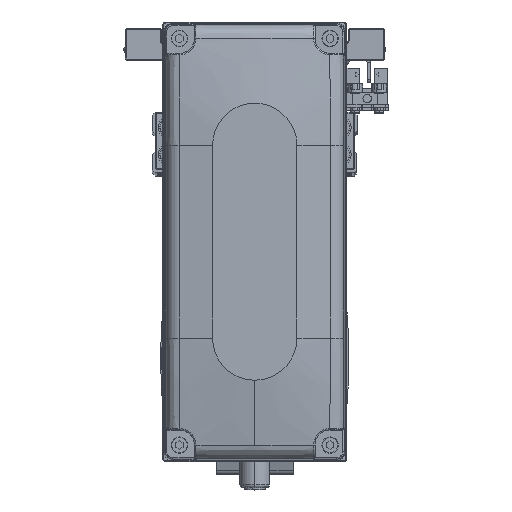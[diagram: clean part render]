
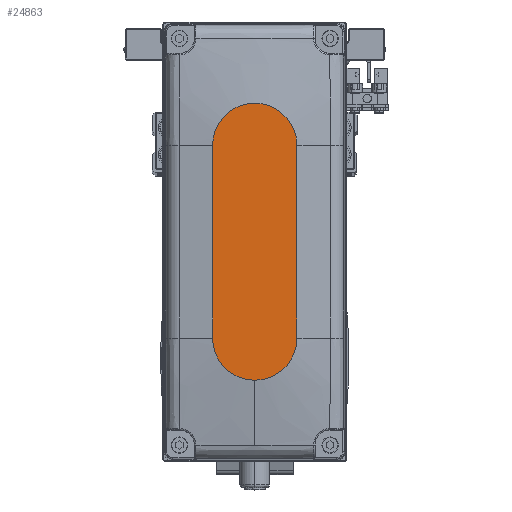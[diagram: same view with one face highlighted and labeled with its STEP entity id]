
A CAD part, top view. The second image highlights one B-rep face of the part: STEP entity #24863.
In plain terms, the highlighted planar face has unit normal (0, 0, 1).
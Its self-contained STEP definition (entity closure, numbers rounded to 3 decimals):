
#212 = DIRECTION ( 'NONE',  ( 1., 0., 0. ) ) ;
#532 = CARTESIAN_POINT ( 'NONE',  ( -32., 14., 35. ) ) ;
#2470 = CARTESIAN_POINT ( 'NONE',  ( -32., -14., 35. ) ) ;
#5398 = EDGE_CURVE ( 'NONE', #36717, #40712, #32518, .T. ) ;
#5700 = CARTESIAN_POINT ( 'NONE',  ( 0., 0., 35. ) ) ;
#6139 = DIRECTION ( 'NONE',  ( 1., 0., 0. ) ) ;
#8370 = CARTESIAN_POINT ( 'NONE',  ( 32., 0., 35. ) ) ;
#10965 = EDGE_CURVE ( 'NONE', #17659, #36717, #41935, .T. ) ;
#12157 = DIRECTION ( 'NONE',  ( 1., 0., 0. ) ) ;
#12732 = VECTOR ( 'NONE', #12157, 1000. ) ;
#14783 = VERTEX_POINT ( 'NONE', #37400 ) ;
#14799 = DIRECTION ( 'NONE',  ( -1., 0., 0. ) ) ;
#16359 = CARTESIAN_POINT ( 'NONE',  ( -32., 14., 35. ) ) ;
#17306 = AXIS2_PLACEMENT_3D ( 'NONE', #5700, #19953, #34189 ) ;
#17659 = VERTEX_POINT ( 'NONE', #43165 ) ;
#17973 = CARTESIAN_POINT ( 'NONE',  ( 32., 0., 35. ) ) ;
#18530 = CIRCLE ( 'NONE', #45218, 14. ) ;
#18831 = ORIENTED_EDGE ( 'NONE', *, *, #5398, .T. ) ;
#19953 = DIRECTION ( 'NONE',  ( 0., 0., 1. ) ) ;
#21501 = AXIS2_PLACEMENT_3D ( 'NONE', #17973, #32202, #212 ) ;
#21830 = AXIS2_PLACEMENT_3D ( 'NONE', #8370, #22626, #36853 ) ;
#22626 = DIRECTION ( 'NONE',  ( 0., 0., 1. ) ) ;
#23464 = FACE_OUTER_BOUND ( 'NONE', #29444, .T. ) ;
#23895 = CARTESIAN_POINT ( 'NONE',  ( -32., 0., 35. ) ) ;
#24460 = VERTEX_POINT ( 'NONE', #2470 ) ;
#24863 = ADVANCED_FACE ( 'NONE', ( #23464 ), #37681, .T. ) ;
#27818 = EDGE_CURVE ( 'NONE', #24460, #14783, #29889, .T. ) ;
#29142 = VECTOR ( 'NONE', #14799, 1000. ) ;
#29444 = EDGE_LOOP ( 'NONE', ( #18831, #36694, #30261, #41830, #45900 ) ) ;
#29889 = LINE ( 'NONE', #44117, #12732 ) ;
#30261 = ORIENTED_EDGE ( 'NONE', *, *, #27818, .T. ) ;
#32202 = DIRECTION ( 'NONE',  ( 0., 0., 1. ) ) ;
#32518 = LINE ( 'NONE', #532, #29142 ) ;
#34189 = DIRECTION ( 'NONE',  ( 1., 0., 0. ) ) ;
#34375 = CARTESIAN_POINT ( 'NONE',  ( 32., 14., 35. ) ) ;
#35643 = CIRCLE ( 'NONE', #21501, 14. ) ;
#36694 = ORIENTED_EDGE ( 'NONE', *, *, #37921, .T. ) ;
#36717 = VERTEX_POINT ( 'NONE', #34375 ) ;
#36853 = DIRECTION ( 'NONE',  ( 1., 0., 0. ) ) ;
#37400 = CARTESIAN_POINT ( 'NONE',  ( 32., -14., 35. ) ) ;
#37681 = PLANE ( 'NONE',  #17306 ) ;
#37921 = EDGE_CURVE ( 'NONE', #40712, #24460, #18530, .T. ) ;
#38121 = DIRECTION ( 'NONE',  ( 0., 0., 1. ) ) ;
#40712 = VERTEX_POINT ( 'NONE', #16359 ) ;
#40910 = EDGE_CURVE ( 'NONE', #14783, #17659, #35643, .T. ) ;
#41830 = ORIENTED_EDGE ( 'NONE', *, *, #40910, .T. ) ;
#41935 = CIRCLE ( 'NONE', #21830, 14. ) ;
#43165 = CARTESIAN_POINT ( 'NONE',  ( 46., 0., 35. ) ) ;
#44117 = CARTESIAN_POINT ( 'NONE',  ( -32., -14., 35. ) ) ;
#45218 = AXIS2_PLACEMENT_3D ( 'NONE', #23895, #38121, #6139 ) ;
#45900 = ORIENTED_EDGE ( 'NONE', *, *, #10965, .T. ) ;
